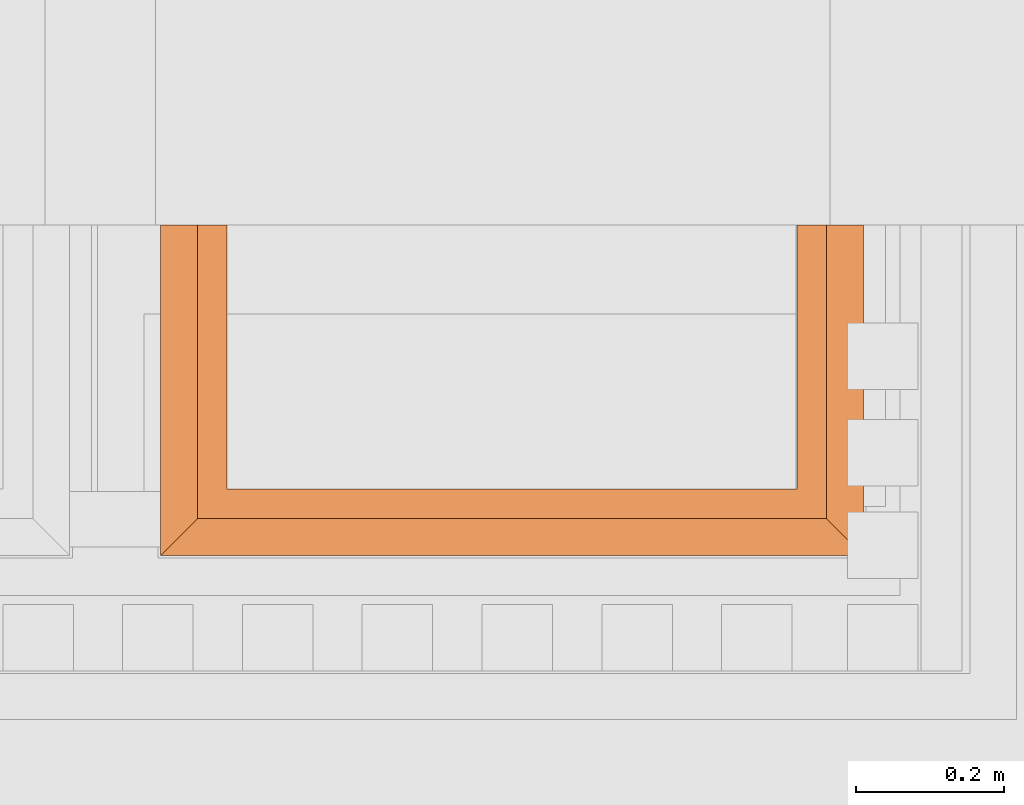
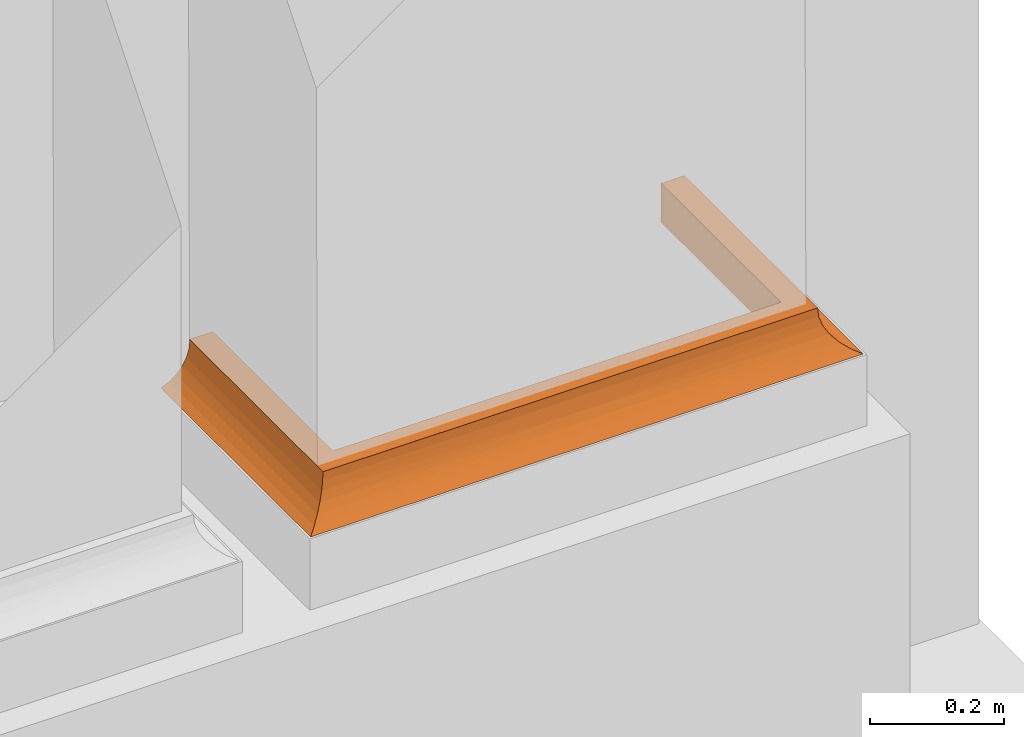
# One storey, part 44 of 44: 1 proxy.
"""IFC2X3 building model written with IfcOpenShell, lengths in metres."""

from ifc_helpers import new_model, entity, si_unit, converted_unit, derived_unit, direction, frame, origin, place, context, subcontext, project, spatial, faceted_brep, element, save


model = new_model("IFC2X3")

# Units and contexts
model_context = context("Model", 3, precision=1e-05, world=origin(), true_north=direction((6.12303176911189e-17, 1.0)))
body_context = subcontext(model_context, "Body", "Model", "MODEL_VIEW")
ifc_project = project(units=[si_unit("LENGTHUNIT", "METRE"), si_unit("AREAUNIT", "SQUARE_METRE"), si_unit("VOLUMEUNIT", "CUBIC_METRE"), converted_unit("PLANEANGLEUNIT", "DEGREE", entity("IfcRatioMeasure", 0.0174532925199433), si_unit("PLANEANGLEUNIT", "RADIAN"), dimensions=[0, 0, 0, 0, 0, 0, 0]), si_unit("MASSUNIT", "GRAM", prefix="KILO"), derived_unit("MASSDENSITYUNIT", [(si_unit("MASSUNIT", "GRAM", prefix="KILO"), 1), (si_unit("LENGTHUNIT", "METRE"), -3)]), si_unit("TIMEUNIT", "SECOND"), si_unit("FREQUENCYUNIT", "HERTZ"), si_unit("THERMODYNAMICTEMPERATUREUNIT", "DEGREE_CELSIUS"), derived_unit("THERMALTRANSMITTANCEUNIT", [(si_unit("MASSUNIT", "GRAM", prefix="KILO"), 1), (si_unit("THERMODYNAMICTEMPERATUREUNIT", "KELVIN"), -1), (si_unit("TIMEUNIT", "SECOND"), -3)]), derived_unit("VOLUMETRICFLOWRATEUNIT", [(si_unit("LENGTHUNIT", "METRE"), 3), (si_unit("TIMEUNIT", "SECOND"), -1)]), si_unit("ELECTRICCURRENTUNIT", "AMPERE"), si_unit("ELECTRICVOLTAGEUNIT", "VOLT"), si_unit("POWERUNIT", "WATT"), si_unit("FORCEUNIT", "NEWTON", prefix="KILO"), si_unit("ILLUMINANCEUNIT", "LUX"), si_unit("LUMINOUSFLUXUNIT", "LUMEN"), si_unit("LUMINOUSINTENSITYUNIT", "CANDELA"), derived_unit("USERDEFINED", [(si_unit("MASSUNIT", "GRAM", prefix="KILO"), -1), (si_unit("LENGTHUNIT", "METRE"), -2), (si_unit("TIMEUNIT", "SECOND"), 3), (si_unit("LUMINOUSFLUXUNIT", "LUMEN"), 1)]), derived_unit("LINEARVELOCITYUNIT", [(si_unit("LENGTHUNIT", "METRE"), 1), (si_unit("TIMEUNIT", "SECOND"), -1)]), si_unit("PRESSUREUNIT", "PASCAL"), derived_unit("USERDEFINED", [(si_unit("LENGTHUNIT", "METRE"), -2), (si_unit("MASSUNIT", "GRAM", prefix="KILO"), 1), (si_unit("TIMEUNIT", "SECOND"), -2)])], contexts=[model_context])

# Site, building, storey
site_placement = place(None, origin())
site = spatial("IfcSite", under=ifc_project, at=site_placement, Name="Default", CompositionType="ELEMENT")
building_placement = place(site_placement, origin())
building = spatial("IfcBuilding", under=site, at=building_placement, CompositionType="ELEMENT")
storey_placement = place(building_placement, origin())
storey = spatial("IfcBuildingStorey", under=building, at=storey_placement, Name="Livello 1", CompositionType="ELEMENT", Elevation=0.0)

# Proxy
proxy_placement = place(storey_placement, frame((10.502577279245, 0.815415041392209, 14.1322889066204)))
element("IfcBuildingElementProxy", 1, at=proxy_placement, inside=storey, Name="Stratigrafia", context=body_context, shape_type="Brep", body=[
    faceted_brep([(0.860981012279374, 0.447957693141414, 0.0015952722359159), (0.860981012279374, 0.447957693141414, 0.0725246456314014), (0.900981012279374, 0.447957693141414, 0.0725246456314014), (0.90198435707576, 0.447957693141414, 0.057057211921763), (0.906320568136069, 0.447957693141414, 0.0421761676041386), (0.913782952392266, 0.447957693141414, 0.028590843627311), (0.924015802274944, 0.447957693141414, 0.0169488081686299), (0.936531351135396, 0.447957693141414, 0.00780499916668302), (0.950733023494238, 0.447957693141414, 0.0015952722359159), (0.0015952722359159, 0.447957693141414, 0.0015952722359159), (0.0157969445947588, 0.447957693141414, 0.00780499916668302), (0.0283124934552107, 0.447957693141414, 0.0169488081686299), (0.038545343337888, 0.447957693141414, 0.028590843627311), (0.0460077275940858, 0.447957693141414, 0.0421761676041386), (0.0503439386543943, 0.447957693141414, 0.057057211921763), (0.0513472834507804, 0.447957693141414, 0.0725246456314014), (0.0913472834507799, 0.447957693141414, 0.0725246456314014), (0.0913472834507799, 0.447957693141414, 0.0015952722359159), (0.90198435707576, 0.0503439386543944, 0.057057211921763), (0.906320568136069, 0.0460077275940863, 0.0421761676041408), (0.913782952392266, 0.0385453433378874, 0.028590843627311), (0.900981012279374, 0.0513472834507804, 0.0725246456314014), (0.924015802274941, 0.0283124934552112, 0.0169488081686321), (0.936531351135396, 0.0157969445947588, 0.00780499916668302), (0.950733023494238, 0.00159527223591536, 0.0015952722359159), (0.590003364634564, 0.00159527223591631, 0.0015952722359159), (0.0015952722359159, 0.00159527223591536, 0.0015952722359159), (0.0913472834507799, 0.0913472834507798, 0.0015952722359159), (0.860981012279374, 0.0913472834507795, 0.0015952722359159), (0.860981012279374, 0.0913472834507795, 0.0725246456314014), (0.0513472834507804, 0.0513472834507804, 0.0725246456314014), (0.31257291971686, 0.0513472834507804, 0.0725246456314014), (0.0913472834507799, 0.0913472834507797, 0.0725246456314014), (0.572423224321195, 0.0334274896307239, 0.0221280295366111), (0.0157969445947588, 0.0157969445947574, 0.00780499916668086), (0.476164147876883, 0.0424788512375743, 0.0348723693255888), (0.0503439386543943, 0.0503439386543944, 0.057057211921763), (0.476164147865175, 0.0502370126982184, 0.0564642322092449), (0.476164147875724, 0.0218065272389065, 0.0116734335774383), (0.0460077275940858, 0.0460077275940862, 0.0421761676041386), (0.0283124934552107, 0.0283124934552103, 0.0169488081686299), (0.038545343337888, 0.0385453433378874, 0.028590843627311)], [[[0, 1, 2, 3, 4, 5, 6, 7, 8]], [[9, 10, 11, 12, 13, 14, 15, 16, 17]], [[4, 3, 18, 19]], [[5, 4, 19, 20]], [[21, 18, 3, 2]], [[7, 6, 22, 23]], [[8, 7, 23, 24]], [[6, 5, 20, 22]], [[0, 8, 24, 25, 26, 9, 17, 27, 28]], [[1, 0, 28, 29]], [[16, 15, 30, 31, 21, 2, 1, 29, 32]], [[33, 22, 20]], [[25, 34, 26]], [[23, 25, 24]], [[19, 35, 20]], [[31, 36, 37]], [[31, 37, 21]], [[23, 38, 25]], [[18, 21, 37]], [[39, 37, 36]], [[38, 40, 34]], [[18, 37, 19]], [[37, 35, 19]], [[35, 37, 39]], [[35, 33, 20]], [[38, 34, 25]], [[36, 31, 30]], [[41, 40, 33]], [[38, 33, 40]], [[41, 33, 35]], [[38, 23, 22]], [[35, 39, 41]], [[38, 22, 33]], [[29, 28, 27, 32]], [[12, 41, 39, 13]], [[13, 39, 36, 14]], [[14, 36, 30, 15]], [[9, 26, 34, 10]], [[10, 34, 40, 11]], [[12, 11, 40, 41]], [[32, 27, 17, 16]]]),
])

save(model, "model.ifc")
